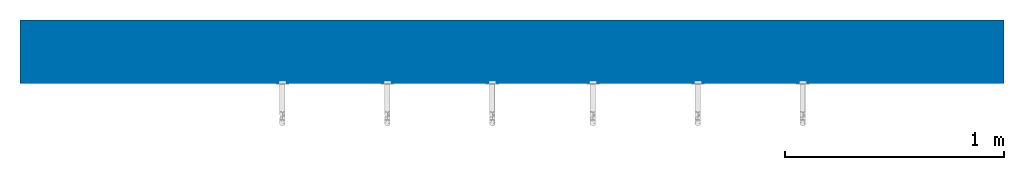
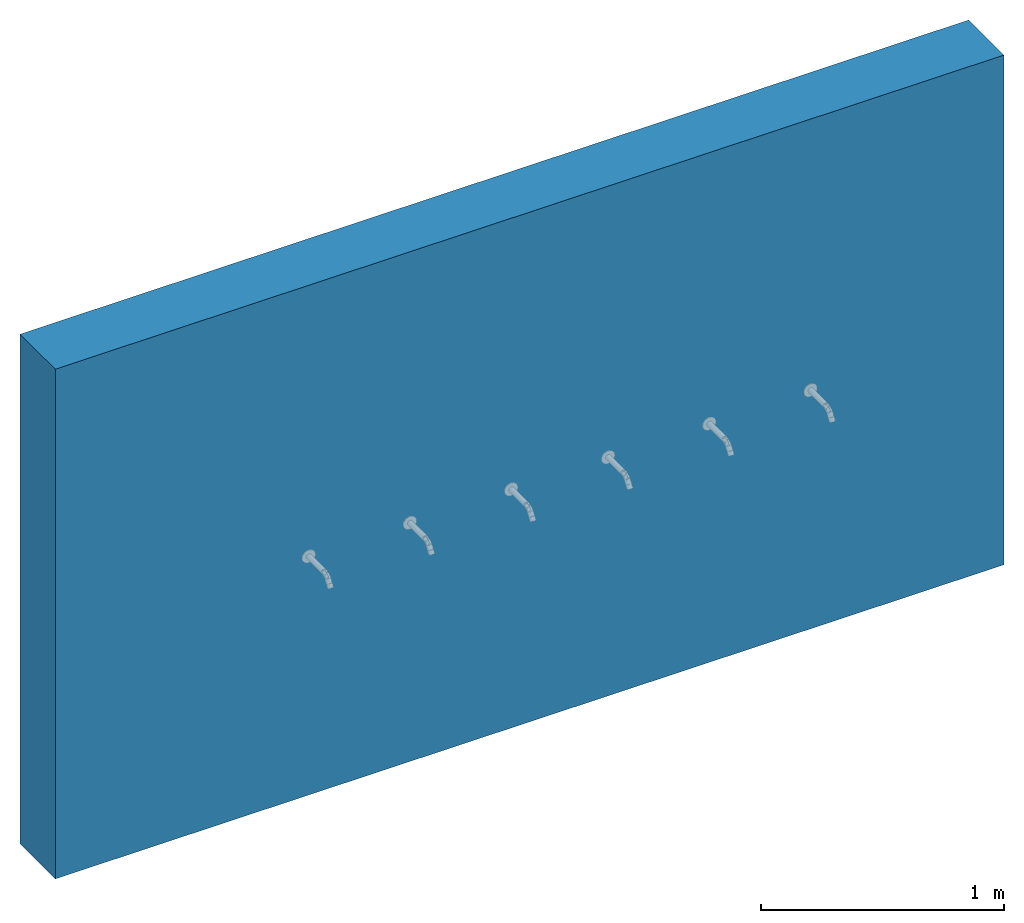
# One storey, incomplete: 1 wall.
"""IFC2X3 building model written with IfcOpenShell, lengths in millimetres."""

from ifc_helpers import new_model, entity, si_unit, converted_unit, derived_unit, direction, frame, frame_2d, origin, place, context, subcontext, project, spatial, rectangle, extrude, material, layer, layer_set, layer_usage, type_object, element, save


model = new_model("IFC2X3")

# Units and contexts
model_context = context("Model", 3, precision=0.01, world=origin(), true_north=direction((6.12303176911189e-17, 1.0)))
body_context = subcontext(model_context, "Body", "Model", "MODEL_VIEW")
ifc_project = project(units=[si_unit("LENGTHUNIT", "METRE", prefix="MILLI"), si_unit("AREAUNIT", "SQUARE_METRE"), si_unit("VOLUMEUNIT", "CUBIC_METRE"), converted_unit("PLANEANGLEUNIT", "DEGREE", entity("IfcRatioMeasure", 0.0174532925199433), si_unit("PLANEANGLEUNIT", "RADIAN"), dimensions=[0, 0, 0, 0, 0, 0, 0]), si_unit("MASSUNIT", "GRAM", prefix="KILO"), derived_unit("MASSDENSITYUNIT", [(si_unit("MASSUNIT", "GRAM", prefix="KILO"), 1), (si_unit("LENGTHUNIT", "METRE"), -3)]), si_unit("TIMEUNIT", "SECOND"), si_unit("FREQUENCYUNIT", "HERTZ"), si_unit("THERMODYNAMICTEMPERATUREUNIT", "DEGREE_CELSIUS"), derived_unit("THERMALTRANSMITTANCEUNIT", [(si_unit("MASSUNIT", "GRAM", prefix="KILO"), 1), (si_unit("THERMODYNAMICTEMPERATUREUNIT", "KELVIN"), -1), (si_unit("TIMEUNIT", "SECOND"), -3)]), derived_unit("VOLUMETRICFLOWRATEUNIT", [(si_unit("LENGTHUNIT", "METRE"), 3), (si_unit("TIMEUNIT", "SECOND"), -1)]), si_unit("ELECTRICCURRENTUNIT", "AMPERE"), si_unit("ELECTRICVOLTAGEUNIT", "VOLT"), si_unit("POWERUNIT", "WATT"), si_unit("FORCEUNIT", "NEWTON", prefix="KILO"), si_unit("ILLUMINANCEUNIT", "LUX"), si_unit("LUMINOUSFLUXUNIT", "LUMEN"), si_unit("LUMINOUSINTENSITYUNIT", "CANDELA"), derived_unit("USERDEFINED", [(si_unit("MASSUNIT", "GRAM", prefix="KILO"), -1), (si_unit("LENGTHUNIT", "METRE"), -2), (si_unit("TIMEUNIT", "SECOND"), 3), (si_unit("LUMINOUSFLUXUNIT", "LUMEN"), 1)]), derived_unit("LINEARVELOCITYUNIT", [(si_unit("LENGTHUNIT", "METRE"), 1), (si_unit("TIMEUNIT", "SECOND"), -1)]), si_unit("PRESSUREUNIT", "PASCAL"), derived_unit("USERDEFINED", [(si_unit("LENGTHUNIT", "METRE"), -2), (si_unit("MASSUNIT", "GRAM", prefix="KILO"), 1), (si_unit("TIMEUNIT", "SECOND"), -2)])], contexts=[model_context])

# Site, building, storey
site_placement = place(None, origin())
site = spatial("IfcSite", under=ifc_project, at=site_placement, Name="Default", CompositionType="ELEMENT")
building_placement = place(site_placement, origin())
building = spatial("IfcBuilding", under=site, at=building_placement, CompositionType="ELEMENT")
storey_placement = place(building_placement, origin())
storey = spatial("IfcBuildingStorey", under=building, at=storey_placement, Name="Level 0", CompositionType="ELEMENT", Elevation=0.0)

# Wall
ifc_material_1 = material(Name="Brick, Common")
ifc_layer_1 = layer(ifc_material_1, 102.5)
ifc_material_2 = material(Name="Fiberglass Batt")
ifc_layer_2 = layer(ifc_material_2, 75.0)
ifc_material_3 = material(Name="Concrete Masonry Units _Low Density")
ifc_layer_3 = layer(ifc_material_3, 100.0)
ifc_material_4 = material(Name="Plaster")
ifc_layer_4 = layer(ifc_material_4, 12.5)
ifc_layer_set = layer_set([ifc_layer_1, ifc_layer_2, ifc_layer_3, ifc_layer_4], Name="Basic Wall:Wall-Ext_102Bwk-75Ins-100LBlk-12P")
ifc_layer_usage = layer_usage(ifc_layer_set, "AXIS2", "NEGATIVE", 145.0)
wall_type = type_object("IfcWallType", Name="Basic Wall:Wall-Ext_102Bwk-75Ins-100LBlk-12P", PredefinedType="STANDARD", material=ifc_layer_set)
wall_placement = place(storey_placement, frame((-6165.47638772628, 184.788158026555, 0.0)))
element("IfcWallStandardCase", 1, at=wall_placement, inside=storey, type_object=wall_type, material=ifc_layer_usage, Name="Basic Wall:Wall-Ext_102Bwk-75Ins-100LBlk-12P", ObjectType="Basic Wall:Wall-Ext_102Bwk-75Ins-100LBlk-12P", context=body_context, shape_type="SweptSolid", body=[
    extrude(rectangle(XDim=4500.0, YDim=290.0, at=frame_2d((2250.0, -1.4210854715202e-14), x_axis=(-1.0, 0.0))), origin(), (0.0, 0.0, 1.0), 2556.02976887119),
])

save(model, "model.ifc")
